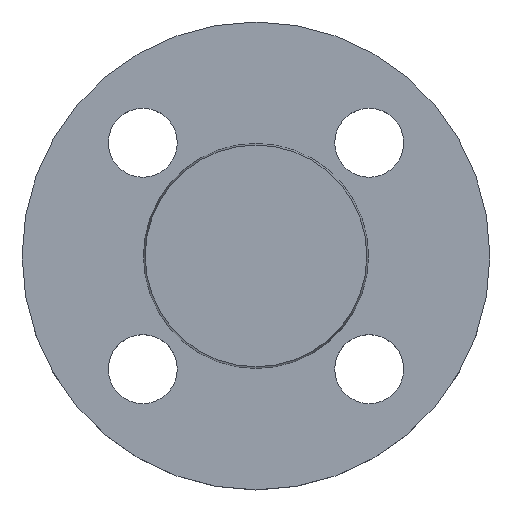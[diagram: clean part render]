
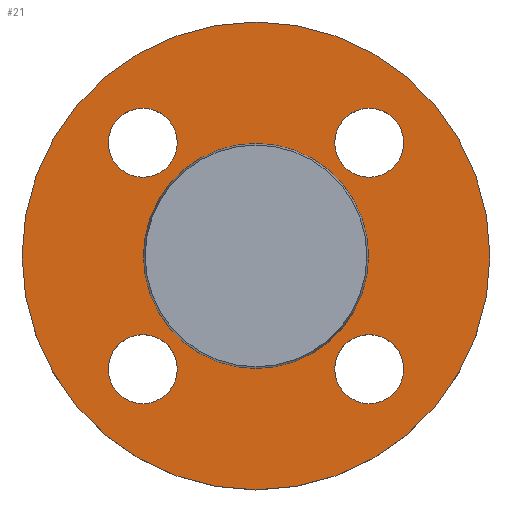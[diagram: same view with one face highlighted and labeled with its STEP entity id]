
A CAD part, top view. The second image highlights one B-rep face of the part: STEP entity #21.
In plain terms, the highlighted planar face has unit normal (0, 0, 1).
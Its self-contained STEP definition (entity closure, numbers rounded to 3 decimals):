
#9 = EDGE_CURVE ( 'NONE', #623, #593, #286, .T. ) ;
#11 = AXIS2_PLACEMENT_3D ( 'NONE', #644, #645, #646 ) ;
#14 = EDGE_CURVE ( 'NONE', #616, #621, #222, .T. ) ;
#15 = EDGE_CURVE ( 'NONE', #342, #608, #60, .T. ) ;
#21 = ADVANCED_FACE ( 'NONE', ( #647, #648, #649, #650, #652, #653 ), #654, .T. ) ;
#22 = DIRECTION ( 'NONE',  ( 1., 0., 0. ) ) ;
#24 = CARTESIAN_POINT ( 'NONE',  ( -22.981, 22.981, -2. ) ) ;
#29 = AXIS2_PLACEMENT_3D ( 'NONE', #373, #375, #381 ) ;
#30 = CIRCLE ( 'NONE', #29, 22.853 ) ;
#43 = AXIS2_PLACEMENT_3D ( 'NONE', #435, #424, #206 ) ;
#60 = CIRCLE ( 'NONE', #11, 7. ) ;
#67 = CIRCLE ( 'NONE', #320, 7. ) ;
#69 = EDGE_CURVE ( 'NONE', #624, #609, #115, .T. ) ;
#101 = AXIS2_PLACEMENT_3D ( 'NONE', #671, #675, #676 ) ;
#115 = CIRCLE ( 'NONE', #101, 22.853 ) ;
#137 = CARTESIAN_POINT ( 'NONE',  ( -22.853, 0., -2. ) ) ;
#138 = CARTESIAN_POINT ( 'NONE',  ( 47.5, 0., -2. ) ) ;
#140 = CARTESIAN_POINT ( 'NONE',  ( -15.981, -22.981, -2. ) ) ;
#147 = EDGE_CURVE ( 'NONE', #608, #342, #303, .T. ) ;
#148 = CARTESIAN_POINT ( 'NONE',  ( -29.981, -22.981, -2. ) ) ;
#159 = CARTESIAN_POINT ( 'NONE',  ( 0., 0., -2. ) ) ;
#169 = AXIS2_PLACEMENT_3D ( 'NONE', #655, #657, #658 ) ;
#172 = AXIS2_PLACEMENT_3D ( 'NONE', #317, #318, #322 ) ;
#179 = DIRECTION ( 'NONE',  ( 0., 0., -1. ) ) ;
#182 = CARTESIAN_POINT ( 'NONE',  ( -47.5, 0., -2. ) ) ;
#184 = CIRCLE ( 'NONE', #172, 7. ) ;
#192 = DIRECTION ( 'NONE',  ( 0., 0., -1. ) ) ;
#193 = CARTESIAN_POINT ( 'NONE',  ( -29.981, 22.981, -2. ) ) ;
#195 = CARTESIAN_POINT ( 'NONE',  ( -22.981, -22.981, -2. ) ) ;
#199 = DIRECTION ( 'NONE',  ( 1., 0., 0. ) ) ;
#200 = DIRECTION ( 'NONE',  ( 0., 0., -1. ) ) ;
#206 = DIRECTION ( 'NONE',  ( 1., 0., 0. ) ) ;
#220 = AXIS2_PLACEMENT_3D ( 'NONE', #641, #642, #643 ) ;
#222 = CIRCLE ( 'NONE', #220, 7. ) ;
#223 = AXIS2_PLACEMENT_3D ( 'NONE', #159, #192, #411 ) ;
#237 = CIRCLE ( 'NONE', #223, 47.5 ) ;
#239 = CIRCLE ( 'NONE', #252, 7. ) ;
#252 = AXIS2_PLACEMENT_3D ( 'NONE', #195, #200, #199 ) ;
#259 = CARTESIAN_POINT ( 'NONE',  ( -22.981, 22.981, -2. ) ) ;
#260 = DIRECTION ( 'NONE',  ( 0., 0., -1. ) ) ;
#261 = DIRECTION ( 'NONE',  ( 1., 0., 0. ) ) ;
#262 = CARTESIAN_POINT ( 'NONE',  ( 29.981, -22.981, -2. ) ) ;
#286 = CIRCLE ( 'NONE', #431, 47.5 ) ;
#303 = CIRCLE ( 'NONE', #656, 7. ) ;
#317 = CARTESIAN_POINT ( 'NONE',  ( 22.981, 22.981, -2. ) ) ;
#318 = DIRECTION ( 'NONE',  ( 0., 0., -1. ) ) ;
#320 = AXIS2_PLACEMENT_3D ( 'NONE', #259, #260, #261 ) ;
#322 = DIRECTION ( 'NONE',  ( 1., 0., 0. ) ) ;
#331 = CIRCLE ( 'NONE', #336, 7. ) ;
#336 = AXIS2_PLACEMENT_3D ( 'NONE', #24, #179, #22 ) ;
#340 = EDGE_CURVE ( 'NONE', #444, #594, #67, .T. ) ;
#342 = VERTEX_POINT ( 'NONE', #262 ) ;
#367 = CARTESIAN_POINT ( 'NONE',  ( 29.981, 22.981, -2. ) ) ;
#373 = CARTESIAN_POINT ( 'NONE',  ( 0., 0., -2. ) ) ;
#375 = DIRECTION ( 'NONE',  ( 0., 0., -1. ) ) ;
#381 = DIRECTION ( 'NONE',  ( -1., 0., 0. ) ) ;
#397 = CARTESIAN_POINT ( 'NONE',  ( -15.981, 22.981, -2. ) ) ;
#400 = EDGE_CURVE ( 'NONE', #470, #410, #184, .T. ) ;
#404 = CARTESIAN_POINT ( 'NONE',  ( 15.981, 22.981, -2. ) ) ;
#410 = VERTEX_POINT ( 'NONE', #367 ) ;
#411 = DIRECTION ( 'NONE',  ( -1., 0., 0. ) ) ;
#412 = CARTESIAN_POINT ( 'NONE',  ( 22.853, 0., -2. ) ) ;
#419 = EDGE_CURVE ( 'NONE', #609, #624, #30, .T. ) ;
#424 = DIRECTION ( 'NONE',  ( 0., 0., -1. ) ) ;
#431 = AXIS2_PLACEMENT_3D ( 'NONE', #635, #636, #637 ) ;
#434 = CARTESIAN_POINT ( 'NONE',  ( 15.981, -22.981, -2. ) ) ;
#435 = CARTESIAN_POINT ( 'NONE',  ( 22.981, 22.981, -2. ) ) ;
#444 = VERTEX_POINT ( 'NONE', #397 ) ;
#470 = VERTEX_POINT ( 'NONE', #404 ) ;
#486 = EDGE_CURVE ( 'NONE', #594, #444, #331, .T. ) ;
#511 = ORIENTED_EDGE ( 'NONE', *, *, #15, .T. ) ;
#512 = ORIENTED_EDGE ( 'NONE', *, *, #147, .T. ) ;
#514 = ORIENTED_EDGE ( 'NONE', *, *, #601, .T. ) ;
#516 = CIRCLE ( 'NONE', #43, 7. ) ;
#517 = ORIENTED_EDGE ( 'NONE', *, *, #14, .T. ) ;
#518 = ORIENTED_EDGE ( 'NONE', *, *, #340, .T. ) ;
#519 = ORIENTED_EDGE ( 'NONE', *, *, #486, .T. ) ;
#520 = ORIENTED_EDGE ( 'NONE', *, *, #572, .T. ) ;
#522 = ORIENTED_EDGE ( 'NONE', *, *, #400, .T. ) ;
#523 = ORIENTED_EDGE ( 'NONE', *, *, #69, .T. ) ;
#524 = ORIENTED_EDGE ( 'NONE', *, *, #419, .T. ) ;
#525 = ORIENTED_EDGE ( 'NONE', *, *, #9, .F. ) ;
#526 = ORIENTED_EDGE ( 'NONE', *, *, #582, .F. ) ;
#567 = EDGE_LOOP ( 'NONE', ( #511, #512 ) ) ;
#572 = EDGE_CURVE ( 'NONE', #410, #470, #516, .T. ) ;
#582 = EDGE_CURVE ( 'NONE', #593, #623, #237, .T. ) ;
#583 = EDGE_LOOP ( 'NONE', ( #525, #526 ) ) ;
#588 = EDGE_LOOP ( 'NONE', ( #520, #522 ) ) ;
#593 = VERTEX_POINT ( 'NONE', #182 ) ;
#594 = VERTEX_POINT ( 'NONE', #193 ) ;
#601 = EDGE_CURVE ( 'NONE', #621, #616, #239, .T. ) ;
#608 = VERTEX_POINT ( 'NONE', #434 ) ;
#609 = VERTEX_POINT ( 'NONE', #412 ) ;
#612 = EDGE_LOOP ( 'NONE', ( #514, #517 ) ) ;
#615 = EDGE_LOOP ( 'NONE', ( #523, #524 ) ) ;
#616 = VERTEX_POINT ( 'NONE', #148 ) ;
#621 = VERTEX_POINT ( 'NONE', #140 ) ;
#623 = VERTEX_POINT ( 'NONE', #138 ) ;
#624 = VERTEX_POINT ( 'NONE', #137 ) ;
#625 = EDGE_LOOP ( 'NONE', ( #518, #519 ) ) ;
#635 = CARTESIAN_POINT ( 'NONE',  ( 0., 0., -2. ) ) ;
#636 = DIRECTION ( 'NONE',  ( 0., 0., -1. ) ) ;
#637 = DIRECTION ( 'NONE',  ( -1., 0., 0. ) ) ;
#641 = CARTESIAN_POINT ( 'NONE',  ( -22.981, -22.981, -2. ) ) ;
#642 = DIRECTION ( 'NONE',  ( 0., 0., -1. ) ) ;
#643 = DIRECTION ( 'NONE',  ( 1., 0., 0. ) ) ;
#644 = CARTESIAN_POINT ( 'NONE',  ( 22.981, -22.981, -2. ) ) ;
#645 = DIRECTION ( 'NONE',  ( 0., 0., -1. ) ) ;
#646 = DIRECTION ( 'NONE',  ( 1., 0., 0. ) ) ;
#647 = FACE_BOUND ( 'NONE', #567, .T. ) ;
#648 = FACE_BOUND ( 'NONE', #612, .T. ) ;
#649 = FACE_BOUND ( 'NONE', #625, .T. ) ;
#650 = FACE_BOUND ( 'NONE', #588, .T. ) ;
#652 = FACE_BOUND ( 'NONE', #615, .T. ) ;
#653 = FACE_OUTER_BOUND ( 'NONE', #583, .T. ) ;
#654 = PLANE ( 'NONE',  #169 ) ;
#655 = CARTESIAN_POINT ( 'NONE',  ( 22.853, 0., -2. ) ) ;
#656 = AXIS2_PLACEMENT_3D ( 'NONE', #697, #701, #702 ) ;
#657 = DIRECTION ( 'NONE',  ( 0., 0., 1. ) ) ;
#658 = DIRECTION ( 'NONE',  ( 1., 0., 0. ) ) ;
#671 = CARTESIAN_POINT ( 'NONE',  ( 0., 0., -2. ) ) ;
#675 = DIRECTION ( 'NONE',  ( 0., 0., -1. ) ) ;
#676 = DIRECTION ( 'NONE',  ( -1., 0., 0. ) ) ;
#697 = CARTESIAN_POINT ( 'NONE',  ( 22.981, -22.981, -2. ) ) ;
#701 = DIRECTION ( 'NONE',  ( 0., 0., -1. ) ) ;
#702 = DIRECTION ( 'NONE',  ( 1., 0., 0. ) ) ;
